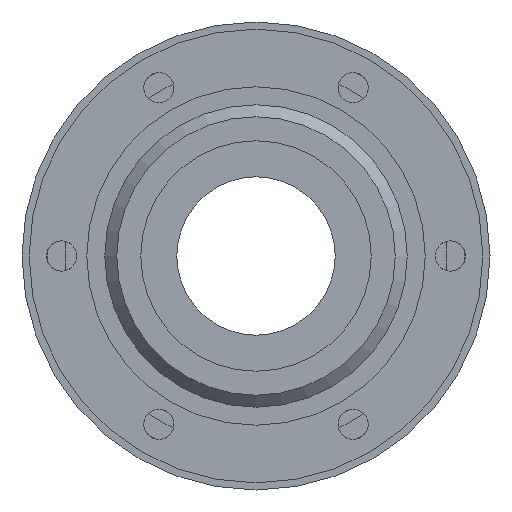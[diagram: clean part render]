
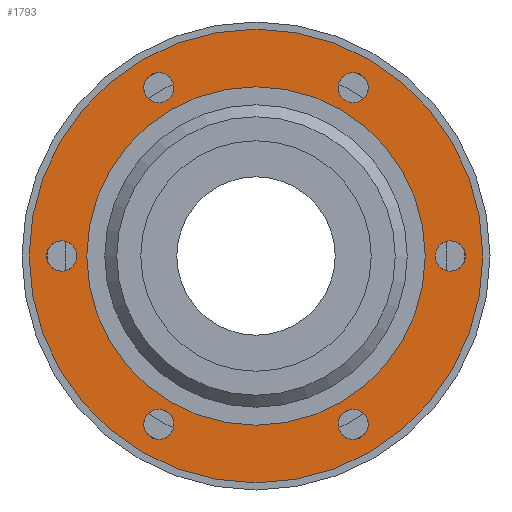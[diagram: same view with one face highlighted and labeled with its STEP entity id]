
A CAD part, left-side view. The second image highlights one B-rep face of the part: STEP entity #1793.
In plain terms, the highlighted planar face has unit normal (-1, 0, 0).
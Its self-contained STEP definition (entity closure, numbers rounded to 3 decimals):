
#24=FACE_BOUND('',#340,.T.);
#25=FACE_BOUND('',#341,.T.);
#26=FACE_BOUND('',#342,.T.);
#27=FACE_BOUND('',#343,.T.);
#28=FACE_BOUND('',#344,.T.);
#29=FACE_BOUND('',#345,.T.);
#30=FACE_BOUND('',#346,.T.);
#113=PLANE('',#2024);
#226=FACE_OUTER_BOUND('',#339,.T.);
#339=EDGE_LOOP('',(#1626));
#340=EDGE_LOOP('',(#1627));
#341=EDGE_LOOP('',(#1628));
#342=EDGE_LOOP('',(#1629));
#343=EDGE_LOOP('',(#1630));
#344=EDGE_LOOP('',(#1631));
#345=EDGE_LOOP('',(#1632));
#346=EDGE_LOOP('',(#1633));
#688=CIRCLE('',#1859,31.5);
#689=CIRCLE('',#1861,23.5);
#696=CIRCLE('',#1872,2.1);
#700=CIRCLE('',#1877,2.1);
#704=CIRCLE('',#1882,2.1);
#708=CIRCLE('',#1887,2.1);
#712=CIRCLE('',#1892,2.1);
#716=CIRCLE('',#1897,2.1);
#794=VERTEX_POINT('',#2670);
#795=VERTEX_POINT('',#2674);
#802=VERTEX_POINT('',#2696);
#804=VERTEX_POINT('',#2704);
#806=VERTEX_POINT('',#2712);
#808=VERTEX_POINT('',#2720);
#810=VERTEX_POINT('',#2728);
#812=VERTEX_POINT('',#2736);
#963=EDGE_CURVE('',#794,#794,#688,.T.);
#964=EDGE_CURVE('',#795,#795,#689,.T.);
#975=EDGE_CURVE('',#802,#802,#696,.T.);
#980=EDGE_CURVE('',#804,#804,#700,.T.);
#985=EDGE_CURVE('',#806,#806,#704,.T.);
#990=EDGE_CURVE('',#808,#808,#708,.T.);
#995=EDGE_CURVE('',#810,#810,#712,.T.);
#1000=EDGE_CURVE('',#812,#812,#716,.T.);
#1626=ORIENTED_EDGE('',*,*,#963,.F.);
#1627=ORIENTED_EDGE('',*,*,#964,.T.);
#1628=ORIENTED_EDGE('',*,*,#1000,.T.);
#1629=ORIENTED_EDGE('',*,*,#995,.T.);
#1630=ORIENTED_EDGE('',*,*,#990,.T.);
#1631=ORIENTED_EDGE('',*,*,#985,.T.);
#1632=ORIENTED_EDGE('',*,*,#980,.T.);
#1633=ORIENTED_EDGE('',*,*,#975,.T.);
#1793=ADVANCED_FACE('',(#226,#24,#25,#26,#27,#28,#29,#30),#113,.T.);
#1859=AXIS2_PLACEMENT_3D('',#2672,#2118,#2119);
#1861=AXIS2_PLACEMENT_3D('',#2675,#2122,#2123);
#1872=AXIS2_PLACEMENT_3D('',#2697,#2148,#2149);
#1877=AXIS2_PLACEMENT_3D('',#2705,#2159,#2160);
#1882=AXIS2_PLACEMENT_3D('',#2713,#2170,#2171);
#1887=AXIS2_PLACEMENT_3D('',#2721,#2181,#2182);
#1892=AXIS2_PLACEMENT_3D('',#2729,#2192,#2193);
#1897=AXIS2_PLACEMENT_3D('',#2737,#2203,#2204);
#2024=AXIS2_PLACEMENT_3D('',#3100,#2580,#2581);
#2118=DIRECTION('center_axis',(1.,0.,0.));
#2119=DIRECTION('ref_axis',(0.,0.,-1.));
#2122=DIRECTION('center_axis',(1.,0.,0.));
#2123=DIRECTION('ref_axis',(0.,0.,-1.));
#2148=DIRECTION('center_axis',(1.,0.,0.));
#2149=DIRECTION('ref_axis',(0.,0.,-1.));
#2159=DIRECTION('center_axis',(1.,0.,0.));
#2160=DIRECTION('ref_axis',(0.,0.,-1.));
#2170=DIRECTION('center_axis',(1.,0.,0.));
#2171=DIRECTION('ref_axis',(0.,0.,-1.));
#2181=DIRECTION('center_axis',(1.,0.,0.));
#2182=DIRECTION('ref_axis',(0.,0.,-1.));
#2192=DIRECTION('center_axis',(1.,0.,0.));
#2193=DIRECTION('ref_axis',(0.,0.,-1.));
#2203=DIRECTION('center_axis',(1.,0.,0.));
#2204=DIRECTION('ref_axis',(0.,0.,-1.));
#2580=DIRECTION('center_axis',(-1.,0.,0.));
#2581=DIRECTION('ref_axis',(0.,0.,1.));
#2670=CARTESIAN_POINT('',(11.,0.,31.5));
#2672=CARTESIAN_POINT('Origin',(11.,0.,0.));
#2674=CARTESIAN_POINT('',(11.,0.,23.5));
#2675=CARTESIAN_POINT('Origin',(11.,0.,0.));
#2696=CARTESIAN_POINT('',(11.,-27.,2.1));
#2697=CARTESIAN_POINT('Origin',(11.,-27.,0.));
#2704=CARTESIAN_POINT('',(11.,-13.5,-21.283));
#2705=CARTESIAN_POINT('Origin',(11.,-13.5,-23.383));
#2712=CARTESIAN_POINT('',(11.,13.5,-21.283));
#2713=CARTESIAN_POINT('Origin',(11.,13.5,-23.383));
#2720=CARTESIAN_POINT('',(11.,27.,2.1));
#2721=CARTESIAN_POINT('Origin',(11.,27.,0.));
#2728=CARTESIAN_POINT('',(11.,13.5,25.483));
#2729=CARTESIAN_POINT('Origin',(11.,13.5,23.383));
#2736=CARTESIAN_POINT('',(11.,-13.5,25.483));
#2737=CARTESIAN_POINT('Origin',(11.,-13.5,23.383));
#3100=CARTESIAN_POINT('Origin',(11.,0.,-27.5));
